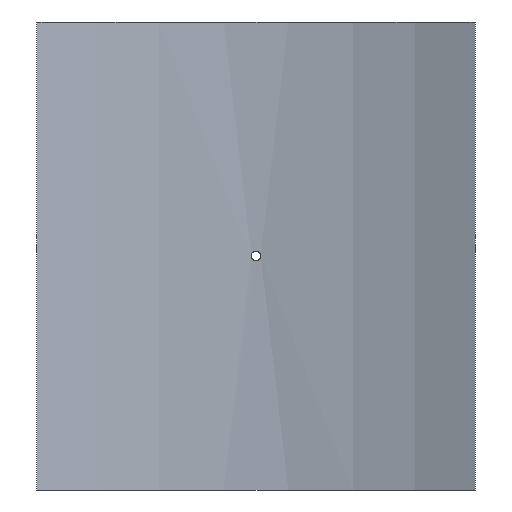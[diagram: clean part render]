
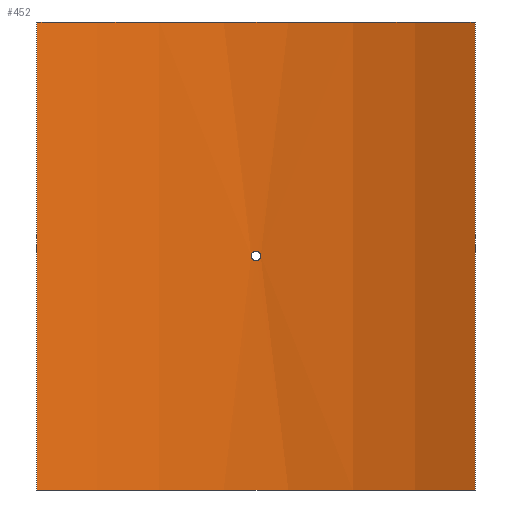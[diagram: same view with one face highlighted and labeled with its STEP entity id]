
A CAD part, front view. The second image highlights one B-rep face of the part: STEP entity #452.
In plain terms, the highlighted cylindrical face has radius 500 mm (diameter 1000 mm), a partial arc.
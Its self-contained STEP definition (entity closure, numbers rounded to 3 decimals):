
#19=B_SPLINE_CURVE_WITH_KNOTS('',3,(#788,#789,#790,#791,#792,#793,#794,
#795,#796,#797,#798,#799,#800,#801,#802,#803,#804,#805,#806,#807,#808,#809,
#810,#811,#812,#813,#814,#815,#816,#817,#818,#819,#820,#821),
 .UNSPECIFIED.,.T.,.F.,(4,2,2,2,2,2,2,2,2,2,2,2,2,2,2,2,4),(0.,0.181,
0.362,0.542,0.723,0.904,
1.085,1.266,1.446,1.627,1.808,
1.989,2.17,2.351,2.531,2.712,
2.893),.UNSPECIFIED.);
#43=LINE('',#1065,#62);
#44=LINE('',#1068,#63);
#62=VECTOR('',#661,10.);
#63=VECTOR('',#664,10.);
#76=CYLINDRICAL_SURFACE('',#530,500.);
#88=FACE_BOUND('',#167,.T.);
#127=FACE_OUTER_BOUND('',#166,.T.);
#166=EDGE_LOOP('',(#405,#406,#407,#408));
#167=EDGE_LOOP('',(#409));
#201=CIRCLE('',#529,500.);
#202=CIRCLE('',#531,500.);
#219=VERTEX_POINT('',#786);
#242=VERTEX_POINT('',#1058);
#243=VERTEX_POINT('',#1060);
#244=VERTEX_POINT('',#1064);
#245=VERTEX_POINT('',#1066);
#267=EDGE_CURVE('',#219,#219,#19,.T.);
#299=EDGE_CURVE('',#242,#243,#201,.T.);
#301=EDGE_CURVE('',#244,#242,#43,.T.);
#302=EDGE_CURVE('',#245,#244,#202,.T.);
#303=EDGE_CURVE('',#245,#243,#44,.T.);
#405=ORIENTED_EDGE('',*,*,#301,.F.);
#406=ORIENTED_EDGE('',*,*,#302,.F.);
#407=ORIENTED_EDGE('',*,*,#303,.T.);
#408=ORIENTED_EDGE('',*,*,#299,.F.);
#409=ORIENTED_EDGE('',*,*,#267,.T.);
#452=ADVANCED_FACE('',(#127,#88),#76,.F.);
#529=AXIS2_PLACEMENT_3D('',#1061,#656,#657);
#530=AXIS2_PLACEMENT_3D('',#1063,#659,#660);
#531=AXIS2_PLACEMENT_3D('',#1067,#662,#663);
#656=DIRECTION('center_axis',(0.,0.,1.));
#657=DIRECTION('ref_axis',(0.44,0.898,0.));
#659=DIRECTION('center_axis',(0.,0.,1.));
#660=DIRECTION('ref_axis',(0.44,0.898,0.));
#661=DIRECTION('',(0.,0.,-1.));
#662=DIRECTION('center_axis',(0.,0.,-1.));
#663=DIRECTION('ref_axis',(0.44,0.898,0.));
#664=DIRECTION('',(0.,0.,-1.));
#786=CARTESIAN_POINT('',(4.8,499.977,0.));
#788=CARTESIAN_POINT('Ctrl Pts',(4.8,499.977,0.));
#789=CARTESIAN_POINT('Ctrl Pts',(4.8,499.977,-0.603));
#790=CARTESIAN_POINT('Ctrl Pts',(4.68,499.978,-1.246));
#791=CARTESIAN_POINT('Ctrl Pts',(4.19,499.983,-2.428));
#792=CARTESIAN_POINT('Ctrl Pts',(3.82,499.986,-2.968));
#793=CARTESIAN_POINT('Ctrl Pts',(2.968,499.991,-3.82));
#794=CARTESIAN_POINT('Ctrl Pts',(2.428,499.994,-4.19));
#795=CARTESIAN_POINT('Ctrl Pts',(1.246,499.999,-4.68));
#796=CARTESIAN_POINT('Ctrl Pts',(0.603,500.,-4.8));
#797=CARTESIAN_POINT('Ctrl Pts',(-0.603,500.,-4.8));
#798=CARTESIAN_POINT('Ctrl Pts',(-1.246,499.999,-4.68));
#799=CARTESIAN_POINT('Ctrl Pts',(-2.428,499.994,-4.19));
#800=CARTESIAN_POINT('Ctrl Pts',(-2.968,499.991,-3.82));
#801=CARTESIAN_POINT('Ctrl Pts',(-3.82,499.986,-2.968));
#802=CARTESIAN_POINT('Ctrl Pts',(-4.19,499.983,-2.428));
#803=CARTESIAN_POINT('Ctrl Pts',(-4.68,499.978,-1.246));
#804=CARTESIAN_POINT('Ctrl Pts',(-4.8,499.977,-0.603));
#805=CARTESIAN_POINT('Ctrl Pts',(-4.8,499.977,0.603));
#806=CARTESIAN_POINT('Ctrl Pts',(-4.68,499.978,1.246));
#807=CARTESIAN_POINT('Ctrl Pts',(-4.19,499.983,2.428));
#808=CARTESIAN_POINT('Ctrl Pts',(-3.82,499.986,2.968));
#809=CARTESIAN_POINT('Ctrl Pts',(-2.968,499.991,3.82));
#810=CARTESIAN_POINT('Ctrl Pts',(-2.428,499.994,4.19));
#811=CARTESIAN_POINT('Ctrl Pts',(-1.246,499.999,4.68));
#812=CARTESIAN_POINT('Ctrl Pts',(-0.603,500.,4.8));
#813=CARTESIAN_POINT('Ctrl Pts',(0.603,500.,4.8));
#814=CARTESIAN_POINT('Ctrl Pts',(1.246,499.999,4.68));
#815=CARTESIAN_POINT('Ctrl Pts',(2.428,499.994,4.19));
#816=CARTESIAN_POINT('Ctrl Pts',(2.968,499.991,3.82));
#817=CARTESIAN_POINT('Ctrl Pts',(3.82,499.986,2.968));
#818=CARTESIAN_POINT('Ctrl Pts',(4.19,499.983,2.428));
#819=CARTESIAN_POINT('Ctrl Pts',(4.68,499.978,1.246));
#820=CARTESIAN_POINT('Ctrl Pts',(4.8,499.977,0.603));
#821=CARTESIAN_POINT('Ctrl Pts',(4.8,499.977,0.));
#1058=CARTESIAN_POINT('',(220.,448.999,-235.));
#1060=CARTESIAN_POINT('',(-220.,448.999,-235.));
#1061=CARTESIAN_POINT('Origin',(0.,0.,
-235.));
#1063=CARTESIAN_POINT('Origin',(0.,0.,
0.));
#1064=CARTESIAN_POINT('',(220.,448.999,235.));
#1065=CARTESIAN_POINT('',(220.,448.999,0.));
#1066=CARTESIAN_POINT('',(-220.,448.999,235.));
#1067=CARTESIAN_POINT('Origin',(0.,0.,
235.));
#1068=CARTESIAN_POINT('',(-220.,448.999,0.));
